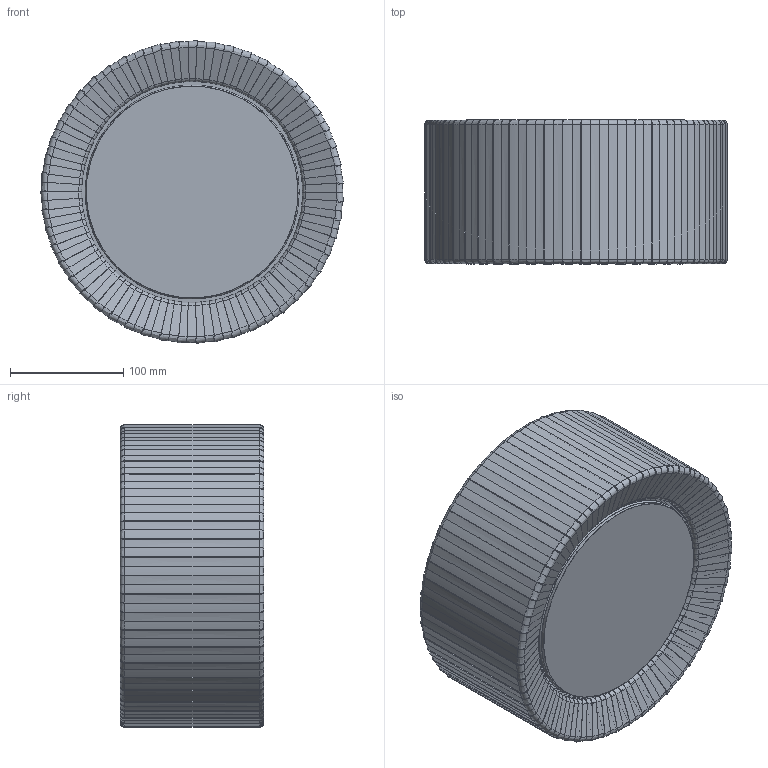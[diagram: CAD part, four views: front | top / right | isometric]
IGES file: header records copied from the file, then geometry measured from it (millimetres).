
Start section: SolidWorks IGES file using analytic representation for surfaces
Global section: file name: E:\3D lampy\Alehandro\Alehandro_5346\Alehandro 5346.IGS; native system: SolidWorks 2016; preprocessor: SolidWorks 2016; author: Asia; date: 161229.144213; units: millimetre
Bounding box: 267.14 x 126.81 x 267.25 mm (x, y, z)
Surface area: 658335.8 mm2 (no closed solid volume)
Topology: 0 solids, 0 shells, 1965 faces, 21315 edges, 21315 vertices
Faces by surface type: bspline 1653, revolution 312
